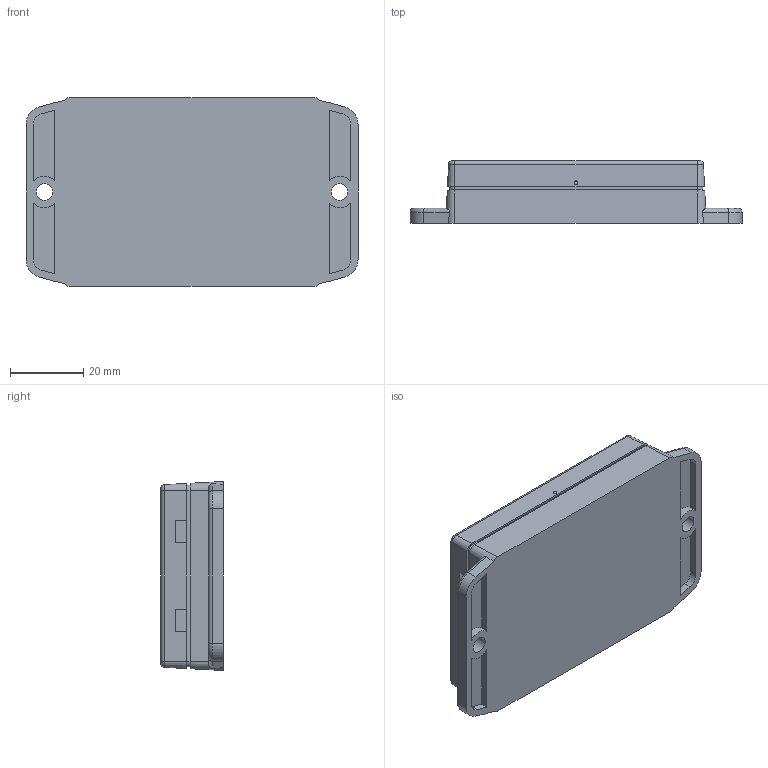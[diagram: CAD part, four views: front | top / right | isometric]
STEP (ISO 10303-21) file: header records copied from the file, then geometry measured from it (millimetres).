
FILE_DESCRIPTION (( 'STEP AP203' ), '1' );
FILE_NAME ('SN-23-01.step', '2018-07-09T14:14:34', ( '' ), ( '' ), 'SwSTEP 2.0', 'SolidWorks 2016', '' );
FILE_SCHEMA (( 'CONFIG_CONTROL_DESIGN' ));
Length unit declared in the file: inch
Products named in the file (3): SN-23-01; SN-23B_SN-23B-01; SN-23C_SN-23C-01
Assembly tree (2 placements, depth 2):
  SN-23-01
    SN-23B_SN-23B-01
    SN-23C_SN-23C-01
Bounding box: 90.4 x 17 x 51.45 mm (x, y, z)
Volume: 24195.3 mm3; surface area: 24573.3 mm2
Topology: 2 solids, 2 shells, 186 faces, 478 edges, 312 vertices
Faces by surface type: plane 124, cylinder 38, cone 16, torus 8
Full cylindrical faces by diameter (mm): 1 x2, 4.5 x2
Entity records: 6101 total; most frequent: CARTESIAN_POINT 1221, DIRECTION 948, ORIENTED_EDGE 932, EDGE_CURVE 466, VECTOR 342, LINE 342, VERTEX_POINT 312, AXIS2_PLACEMENT_3D 303
